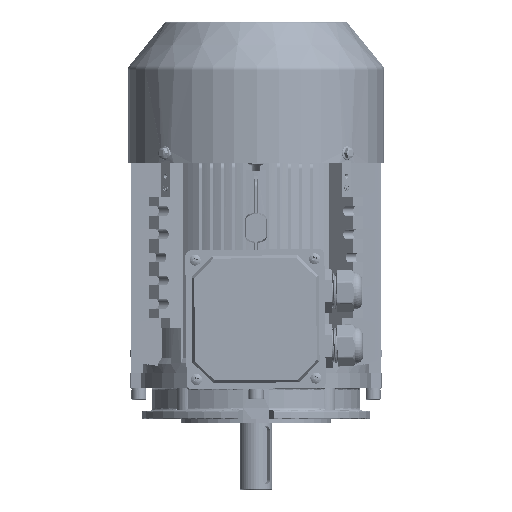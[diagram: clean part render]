
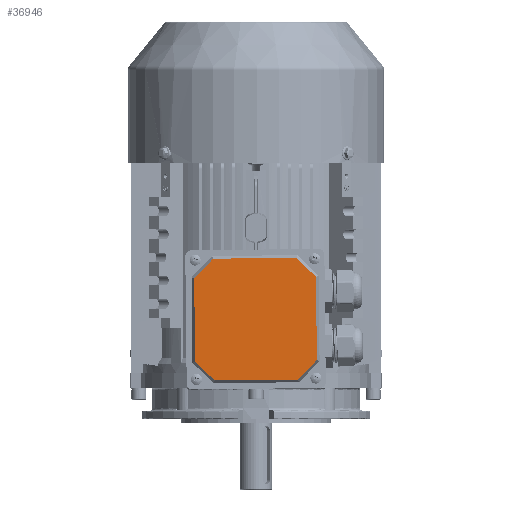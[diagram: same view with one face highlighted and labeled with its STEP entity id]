
A CAD part, top view. The second image highlights one B-rep face of the part: STEP entity #36946.
In plain terms, the highlighted planar face has unit normal (0, 0, 1) as drawn and (0, 0, -1) by its records, which use the part's own axes.
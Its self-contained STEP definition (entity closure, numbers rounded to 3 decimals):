
#229 = EDGE_CURVE ( 'NONE', #23542, #39376, #19673, .T. ) ;
#654 = DIRECTION ( 'NONE',  ( 0., 1., 0. ) ) ;
#3515 = CARTESIAN_POINT ( 'NONE',  ( 44.22, -44.22, -4. ) ) ;
#5177 = VECTOR ( 'NONE', #654, 1000. ) ;
#5672 = DIRECTION ( 'NONE',  ( 0.707, -0.707, 0. ) ) ;
#10815 = FACE_OUTER_BOUND ( 'NONE', #78363, .T. ) ;
#11906 = PLANE ( 'NONE',  #35310 ) ;
#12296 = CARTESIAN_POINT ( 'NONE',  ( 0., 0., -4. ) ) ;
#12680 = EDGE_CURVE ( 'NONE', #111692, #59882, #47554, .T. ) ;
#12750 = ORIENTED_EDGE ( 'NONE', *, *, #76787, .F. ) ;
#19673 = LINE ( 'NONE', #26942, #83401 ) ;
#20135 = LINE ( 'NONE', #48955, #60840 ) ;
#20959 = DIRECTION ( 'NONE',  ( 1., 0., 0. ) ) ;
#23542 = VERTEX_POINT ( 'NONE', #101542 ) ;
#26505 = VECTOR ( 'NONE', #5672, 1000. ) ;
#26655 = VECTOR ( 'NONE', #55441, 1000. ) ;
#26942 = CARTESIAN_POINT ( 'NONE',  ( -44.22, 44.22, -4. ) ) ;
#28221 = EDGE_CURVE ( 'NONE', #30170, #111692, #49562, .T. ) ;
#29361 = CARTESIAN_POINT ( 'NONE',  ( 35.903, 52.536, -4. ) ) ;
#29389 = CARTESIAN_POINT ( 'NONE',  ( -52.536, -35.903, -4. ) ) ;
#30170 = VERTEX_POINT ( 'NONE', #29389 ) ;
#30936 = LINE ( 'NONE', #61367, #5177 ) ;
#31666 = EDGE_CURVE ( 'NONE', #53190, #68502, #30936, .T. ) ;
#33782 = ORIENTED_EDGE ( 'NONE', *, *, #12680, .F. ) ;
#34091 = EDGE_CURVE ( 'NONE', #39376, #30170, #49459, .T. ) ;
#34751 = DIRECTION ( 'NONE',  ( 0., -1., 0. ) ) ;
#35310 = AXIS2_PLACEMENT_3D ( 'NONE', #12296, #72911, #20959 ) ;
#36946 = ADVANCED_FACE ( 'NONE', ( #10815 ), #11906, .F. ) ;
#37919 = ORIENTED_EDGE ( 'NONE', *, *, #98895, .F. ) ;
#39376 = VERTEX_POINT ( 'NONE', #75939 ) ;
#40604 = DIRECTION ( 'NONE',  ( -1., 0., 0. ) ) ;
#44437 = ORIENTED_EDGE ( 'NONE', *, *, #229, .F. ) ;
#44671 = ORIENTED_EDGE ( 'NONE', *, *, #28221, .F. ) ;
#44896 = DIRECTION ( 'NONE',  ( 1., 0., 0. ) ) ;
#45470 = CARTESIAN_POINT ( 'NONE',  ( -35.903, -52.536, -4. ) ) ;
#47554 = LINE ( 'NONE', #70686, #53004 ) ;
#48955 = CARTESIAN_POINT ( 'NONE',  ( 0., 52.536, -4. ) ) ;
#49459 = LINE ( 'NONE', #95441, #69833 ) ;
#49562 = LINE ( 'NONE', #66358, #26505 ) ;
#53004 = VECTOR ( 'NONE', #44896, 1000. ) ;
#53190 = VERTEX_POINT ( 'NONE', #63647 ) ;
#55441 = DIRECTION ( 'NONE',  ( 0.707, 0.707, 0. ) ) ;
#59882 = VERTEX_POINT ( 'NONE', #86681 ) ;
#60840 = VECTOR ( 'NONE', #40604, 1000. ) ;
#61367 = CARTESIAN_POINT ( 'NONE',  ( 52.536, 0., -4. ) ) ;
#63647 = CARTESIAN_POINT ( 'NONE',  ( 52.536, -35.903, -4. ) ) ;
#66358 = CARTESIAN_POINT ( 'NONE',  ( -44.22, -44.22, -4. ) ) ;
#68502 = VERTEX_POINT ( 'NONE', #69740 ) ;
#69740 = CARTESIAN_POINT ( 'NONE',  ( 52.536, 35.903, -4. ) ) ;
#69833 = VECTOR ( 'NONE', #34751, 1000. ) ;
#70097 = LINE ( 'NONE', #3515, #26655 ) ;
#70686 = CARTESIAN_POINT ( 'NONE',  ( 0., -52.536, -4. ) ) ;
#71052 = DIRECTION ( 'NONE',  ( -0.707, 0.707, 0. ) ) ;
#72911 = DIRECTION ( 'NONE',  ( 0., 0., 1. ) ) ;
#75939 = CARTESIAN_POINT ( 'NONE',  ( -52.536, 35.903, -4. ) ) ;
#76787 = EDGE_CURVE ( 'NONE', #68502, #90962, #109498, .T. ) ;
#78363 = EDGE_LOOP ( 'NONE', ( #82468, #37919, #33782, #44671, #89860, #44437, #94984, #12750 ) ) ;
#82468 = ORIENTED_EDGE ( 'NONE', *, *, #31666, .F. ) ;
#83401 = VECTOR ( 'NONE', #96383, 1000. ) ;
#83703 = VECTOR ( 'NONE', #71052, 1000. ) ;
#86681 = CARTESIAN_POINT ( 'NONE',  ( 35.903, -52.536, -4. ) ) ;
#88547 = CARTESIAN_POINT ( 'NONE',  ( 44.22, 44.22, -4. ) ) ;
#89860 = ORIENTED_EDGE ( 'NONE', *, *, #34091, .F. ) ;
#90962 = VERTEX_POINT ( 'NONE', #29361 ) ;
#91631 = EDGE_CURVE ( 'NONE', #90962, #23542, #20135, .T. ) ;
#94984 = ORIENTED_EDGE ( 'NONE', *, *, #91631, .F. ) ;
#95441 = CARTESIAN_POINT ( 'NONE',  ( -52.536, 0., -4. ) ) ;
#96383 = DIRECTION ( 'NONE',  ( -0.707, -0.707, 0. ) ) ;
#98895 = EDGE_CURVE ( 'NONE', #59882, #53190, #70097, .T. ) ;
#101542 = CARTESIAN_POINT ( 'NONE',  ( -35.903, 52.536, -4. ) ) ;
#109498 = LINE ( 'NONE', #88547, #83703 ) ;
#111692 = VERTEX_POINT ( 'NONE', #45470 ) ;
